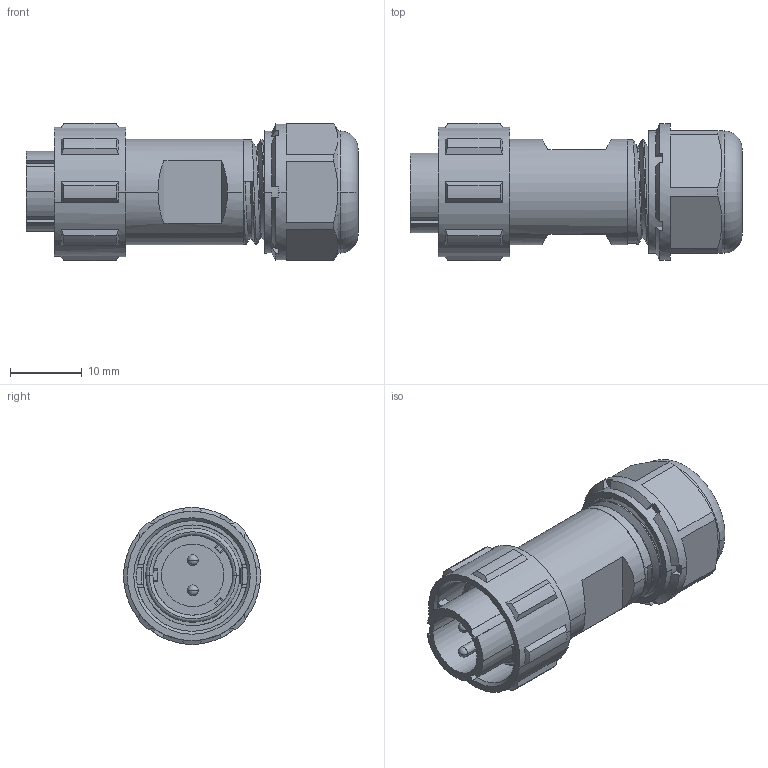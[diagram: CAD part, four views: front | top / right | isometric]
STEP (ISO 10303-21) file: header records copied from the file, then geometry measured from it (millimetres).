
FILE_DESCRIPTION((''),'2;1');
FILE_NAME('SY1310_P3II','2021-02-20T',('Administrator'),(''),'CREO PARAMETRIC BY PTC INC, 2016130','CREO PARAMETRIC BY PTC INC, 2016130','');
FILE_SCHEMA(('AUTOMOTIVE_DESIGN { 1 0 10303 214 1 1 1 1 }'));
Length unit declared in the file: millimetre
Products named in the file (1): SY1310_P3II
Bounding box: 46.2 x 19.2 x 19.19 mm (x, y, z)
Volume: 8132.7 mm3; surface area: 4723.4 mm2
Topology: 2 solids, 7 shells, 239 faces, 661 edges, 445 vertices
Faces by surface type: plane 102, cylinder 70, cone 36, bspline 19, torus 8, sphere 4
Entity records: 10662 total; most frequent: CARTESIAN_POINT 4613, ORIENTED_EDGE 1314, DIRECTION 1192, EDGE_CURVE 657, AXIS2_PLACEMENT_3D 473, VERTEX_POINT 445, EDGE_LOOP 254, CIRCLE 253
